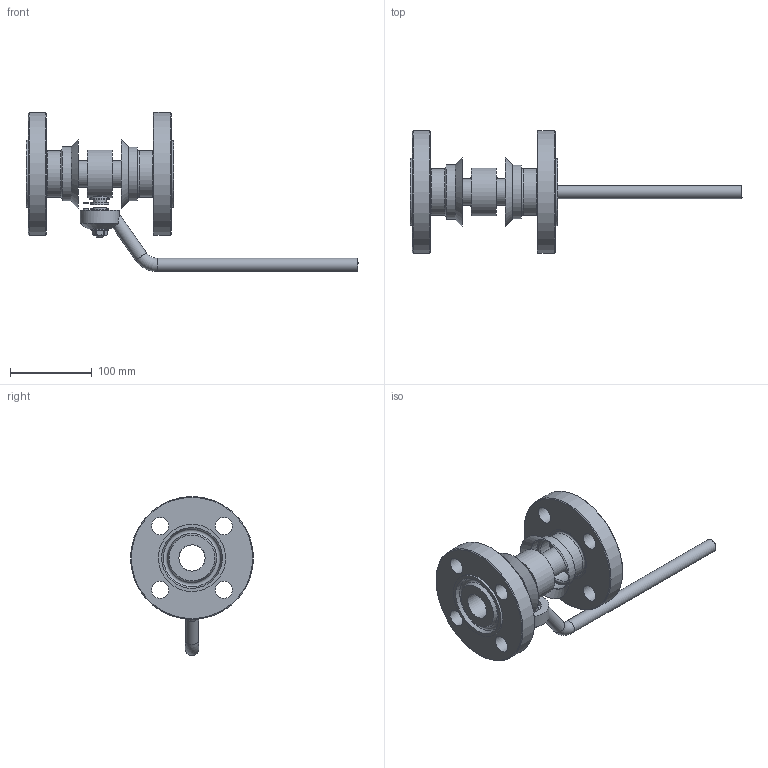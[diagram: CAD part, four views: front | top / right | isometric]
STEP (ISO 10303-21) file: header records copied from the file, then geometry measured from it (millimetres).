
FILE_DESCRIPTION(('STEP AP203'), '1');
FILE_NAME('ZARDP 032.100.27.P.stp', '2013-12-06T06:05:12', ('User'), ('Computer'), 'ASCON STEP Converter 1.3', 'Kompas 3D', '');
FILE_SCHEMA(('CONFIG_CONTROL_DESIGN','SUPPORT_RESOURCE_SCHEMA'));
Length unit declared in the file: millimetre
Products named in the file (1): 33
Bounding box: 405.01 x 150 x 194 mm (x, y, z)
Surface area: 178708.2 mm2
Topology: 6 solids, 7 shells, 185 faces, 395 edges, 248 vertices
Faces by surface type: plane 84, cylinder 60, cone 27, torus 14
Full cylindrical faces by diameter (mm): 6 x2, 10 x2, 16 x3, 16.1 x1, 21 x8, 21.8 x1, 22 x2, 24.3 x1, 24.5 x1, 32 x2, 48 x1, 57 x2, 58.4 x1, 66 x2, 82 x2, 84.5 x1, 150 x2
Entity records: 6396 total; most frequent: CARTESIAN_POINT 2198, DIRECTION 903, ORIENTED_EDGE 788, EDGE_CURVE 395, AXIS2_PLACEMENT_3D 365, VERTEX_POINT 248, EDGE_LOOP 232, ADVANCED_FACE 185
